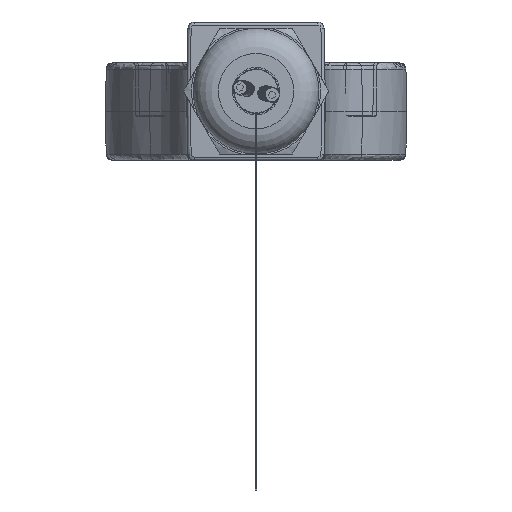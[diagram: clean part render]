
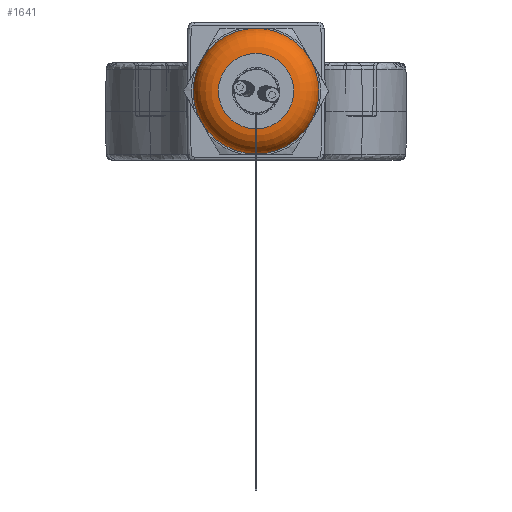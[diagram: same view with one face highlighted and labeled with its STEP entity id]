
A CAD part, front view. The second image highlights one B-rep face of the part: STEP entity #1641.
In plain terms, the highlighted toroidal (fillet/blend) face has major radius 6 mm and minor radius 4 mm.
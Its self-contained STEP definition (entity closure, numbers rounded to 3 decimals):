
#145=TOROIDAL_SURFACE('',#9966,6.,4.);
#1641=ADVANCED_FACE('',(#3436,#3437),#145,.T.);
#3436=FACE_BOUND('',#4049,.T.);
#3437=FACE_BOUND('',#4050,.T.);
#4049=EDGE_LOOP('',(#6493));
#4050=EDGE_LOOP('',(#6494,#6495,#6496,#6497,#6498,#6499));
#6493=ORIENTED_EDGE('',*,*,#8602,.F.);
#6494=ORIENTED_EDGE('',*,*,#8559,.F.);
#6495=ORIENTED_EDGE('',*,*,#8599,.T.);
#6496=ORIENTED_EDGE('',*,*,#8543,.T.);
#6497=ORIENTED_EDGE('',*,*,#8547,.T.);
#6498=ORIENTED_EDGE('',*,*,#8551,.T.);
#6499=ORIENTED_EDGE('',*,*,#8555,.T.);
#7321=VERTEX_POINT('',#17059);
#7322=VERTEX_POINT('',#17060);
#7325=VERTEX_POINT('',#17068);
#7328=VERTEX_POINT('',#17076);
#7331=VERTEX_POINT('',#17084);
#7334=VERTEX_POINT('',#17092);
#7354=VERTEX_POINT('',#17264);
#8543=EDGE_CURVE('',#7321,#7322,#8976,.T.);
#8547=EDGE_CURVE('',#7322,#7325,#8978,.T.);
#8551=EDGE_CURVE('',#7325,#7328,#8980,.T.);
#8555=EDGE_CURVE('',#7328,#7331,#8982,.T.);
#8559=EDGE_CURVE('',#7334,#7331,#8984,.T.);
#8599=EDGE_CURVE('',#7334,#7321,#8988,.T.);
#8602=EDGE_CURVE('',#7354,#7354,#8991,.T.);
#8976=CIRCLE('',#9924,10.);
#8978=CIRCLE('',#9927,10.);
#8980=CIRCLE('',#9930,10.);
#8982=CIRCLE('',#9933,10.);
#8984=CIRCLE('',#9936,10.);
#8988=CIRCLE('',#9948,10.);
#8991=CIRCLE('',#9964,6.);
#9924=AXIS2_PLACEMENT_3D('',#17058,#12391,#12392);
#9927=AXIS2_PLACEMENT_3D('',#17067,#12399,#12400);
#9930=AXIS2_PLACEMENT_3D('',#17075,#12407,#12408);
#9933=AXIS2_PLACEMENT_3D('',#17083,#12415,#12416);
#9936=AXIS2_PLACEMENT_3D('',#17091,#12423,#12424);
#9948=AXIS2_PLACEMENT_3D('',#17246,#12459,#12460);
#9964=AXIS2_PLACEMENT_3D('',#17263,#12491,#12492);
#9966=AXIS2_PLACEMENT_3D('',#17266,#12495,#12496);
#12391=DIRECTION('',(0.,0.,-1.));
#12392=DIRECTION('',(-1.,0.,0.));
#12399=DIRECTION('',(0.,0.,-1.));
#12400=DIRECTION('',(-1.,0.,0.));
#12407=DIRECTION('',(0.,0.,-1.));
#12408=DIRECTION('',(-1.,0.,0.));
#12415=DIRECTION('',(0.,0.,-1.));
#12416=DIRECTION('',(-1.,0.,0.));
#12423=DIRECTION('',(0.,0.,1.));
#12424=DIRECTION('',(-1.,0.,0.));
#12459=DIRECTION('',(0.,0.,-1.));
#12460=DIRECTION('',(-1.,0.,0.));
#12491=DIRECTION('',(0.,0.,-1.));
#12492=DIRECTION('',(-1.,0.,0.));
#12495=DIRECTION('',(0.,0.,-1.));
#12496=DIRECTION('',(-1.,0.,0.));
#17058=CARTESIAN_POINT('',(0.,0.,4.));
#17059=CARTESIAN_POINT('',(-8.66,5.,4.));
#17060=CARTESIAN_POINT('',(0.,10.,4.));
#17067=CARTESIAN_POINT('',(0.,0.,4.));
#17068=CARTESIAN_POINT('',(8.66,5.,4.));
#17075=CARTESIAN_POINT('',(0.,0.,4.));
#17076=CARTESIAN_POINT('',(8.66,-5.,4.));
#17083=CARTESIAN_POINT('',(0.,0.,4.));
#17084=CARTESIAN_POINT('',(0.,-10.,4.));
#17091=CARTESIAN_POINT('',(0.,0.,4.));
#17092=CARTESIAN_POINT('',(-8.66,-5.,4.));
#17246=CARTESIAN_POINT('',(0.,0.,4.));
#17263=CARTESIAN_POINT('',(0.,0.,0.));
#17264=CARTESIAN_POINT('',(-6.,0.,0.));
#17266=CARTESIAN_POINT('',(0.,0.,4.));
